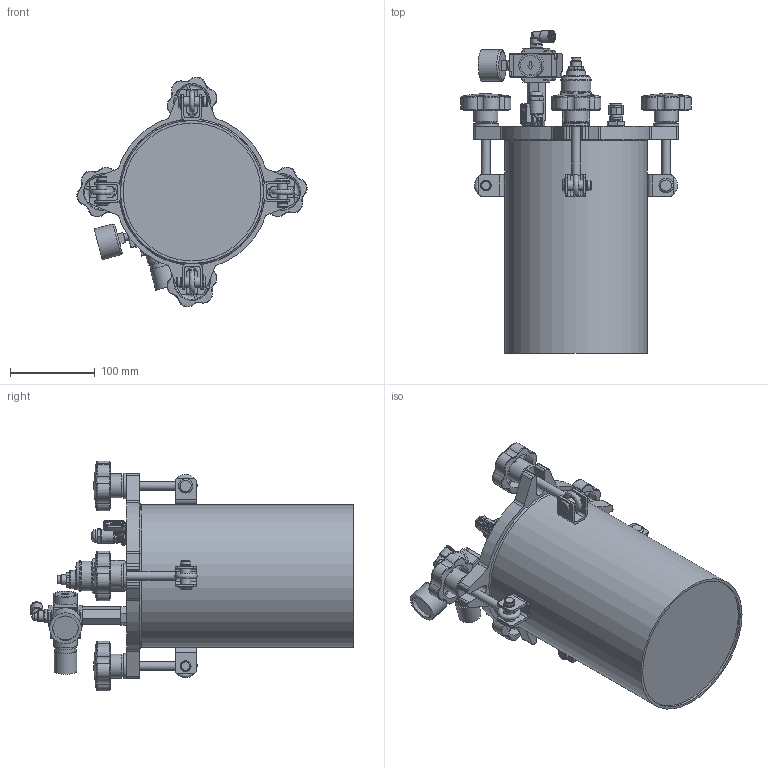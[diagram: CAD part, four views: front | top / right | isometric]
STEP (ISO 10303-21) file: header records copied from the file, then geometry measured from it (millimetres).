
FILE_DESCRIPTION (( 'STEP AP214' ), '1' );
FILE_NAME ('PT5LLS-CAP.STEP', '2024-10-11T14:34:54', ( '' ), ( '' ), 'SwSTEP 2.0', 'SolidWorks 2024', '' );
FILE_SCHEMA (( 'AUTOMOTIVE_DESIGN' ));
Length unit declared in the file: millimetre
Products named in the file (1): PT5LLS-CAP
Bounding box: 271.13 x 380 x 270.77 mm (x, y, z)
Volume: 1473610.9 mm3; surface area: 567355.2 mm2
Topology: 43 solids, 54 shells, 1454 faces, 3590 edges, 2325 vertices
Faces by surface type: plane 702, cylinder 357, bspline 222, cone 114, torus 55, sphere 4
Full cylindrical faces by diameter (mm): 1.9 x1, 2 x1, 3 x1, 4.5 x1, 5 x4, 5.5 x1, 5.6 x4, 6 x3, 6.15 x1, 7 x1, 7.4 x1, 7.5 x1, 8 x3, 8.15 x1, 8.2 x1, 8.3 x1, 8.376 x4, 8.566 x2, 9 x4, 9.4 x1, 10 x7, 10.4 x4, 11 x2, 11.2 x4, 11.445 x2, 11.6 x1, 11.8 x2, 12 x10, 12.5 x1, 12.7 x8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
Entity records: 74599 total; most frequent: CARTESIAN_POINT 42793, ORIENTED_EDGE 6506, DIRECTION 5789, EDGE_CURVE 3253, VERTEX_POINT 2226, AXIS2_PLACEMENT_3D 2071, EDGE_LOOP 1829, LINE 1647
